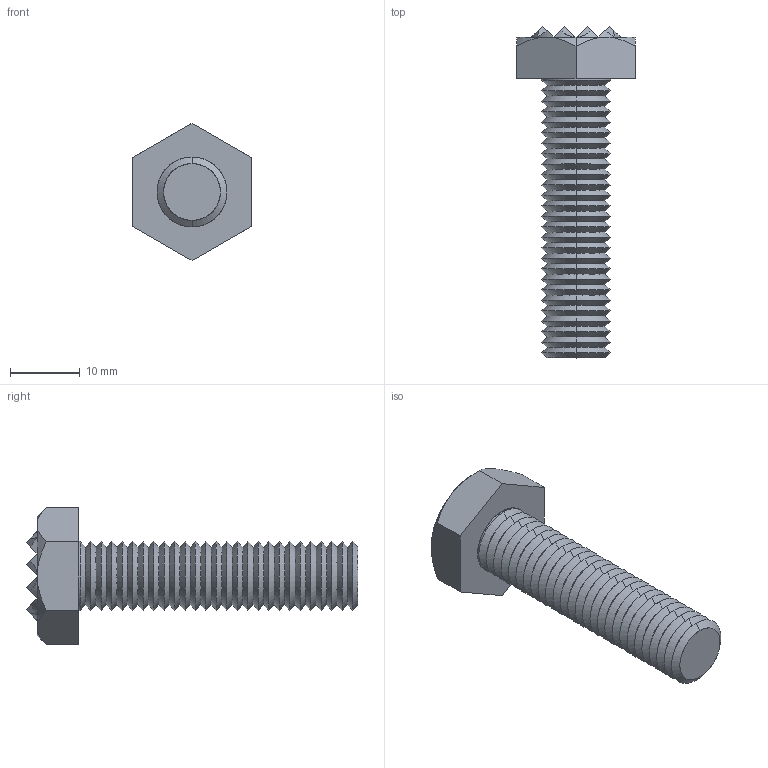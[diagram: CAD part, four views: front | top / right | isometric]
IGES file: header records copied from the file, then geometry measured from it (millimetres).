
Start section: SolidWorks IGES file using analytic representation for surfaces
Global section: file name: C:\Documents and Settings\IANO\Desktop\Temp File\Process pending\NEW\35400_v2\35400_v2_20170704_IGES\35400.W0008.igs; native system: SolidWorks 2009; preprocessor: SolidWorks 2009; author: IANO; date: 170703.082135; units: millimetre
Bounding box: 17 x 47.5 x 19.63 mm (x, y, z)
Surface area: 2682 mm2 (no closed solid volume)
Topology: 0 solids, 0 shells, 192 faces, 985 edges, 985 vertices
Faces by surface type: revolution 127, bspline 65
